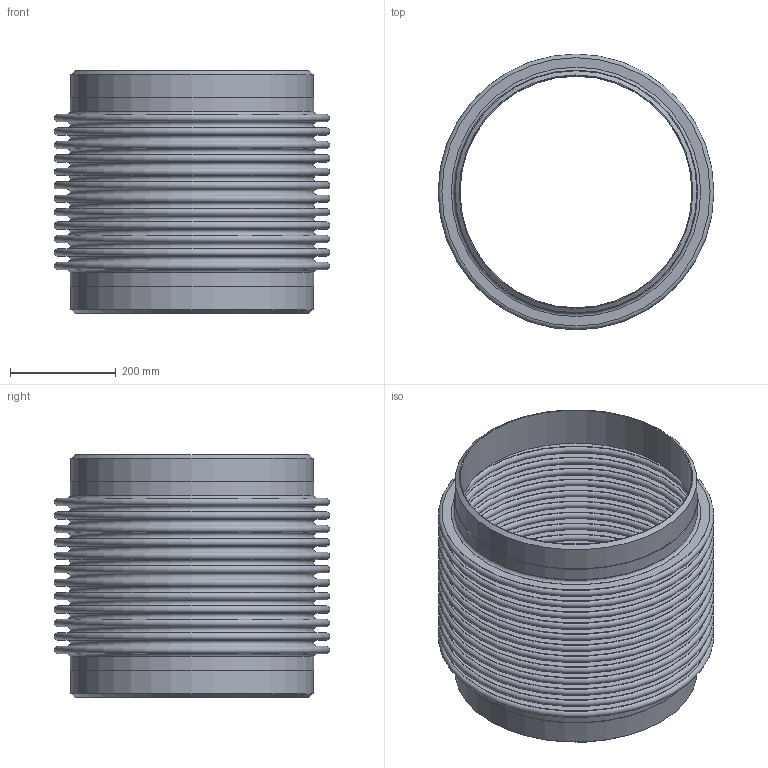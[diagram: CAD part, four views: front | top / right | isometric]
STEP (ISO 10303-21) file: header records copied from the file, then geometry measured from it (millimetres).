
FILE_DESCRIPTION(/* description */ ('EXPANSION JOINT,SINGLE, WELD ENDS,4 INCH NOMINAL'),/* implementation_level */ '2;1');
FILE_NAME(/* name */ 'ASSEMBLY US-18-12-85L.stp',/* time_stamp */ '2026-07-30T07:49:42-05:00',/* author */ ('jorgef'),/* organization */ (''),/* preprocessor_version */ 'ST-DEVELOPER v20.1',/* originating_system */ 'Autodesk Inventor 2026',/* authorisation */ '');
FILE_SCHEMA (('AUTOMOTIVE_DESIGN { 1 0 10303 214 3 1 1 }'));
Length unit declared in the file: inch
Products named in the file (3): ASSEMBLY  US-18-12-85L; STOCK BELLOW - US-18-12-85L; PIPE- US-18-12-85L
Assembly tree (3 placements, depth 2):
  ASSEMBLY  US-18-12-85L
    STOCK BELLOW - US-18-12-85L
    PIPE- US-18-12-85L  x2
Bounding box: 520.7 x 520.7 x 457.2 mm (x, y, z)
Volume: 3760217.3 mm3; surface area: 3413040.2 mm2
Topology: 5 solids, 5 shells, 118 faces, 180 edges, 121 vertices
Faces by surface type: plane 58, torus 50, cylinder 8, cone 2
Full cylindrical faces by diameter (mm): 438.15 x2, 457.2 x4, 459.638 x2
Entity records: 2769 total; most frequent: DIRECTION 573, CARTESIAN_POINT 405, ORIENTED_EDGE 342, AXIS2_PLACEMENT_3D 283, EDGE_CURVE 171, EDGE_LOOP 169, CIRCLE 164, VERTEX_POINT 114
